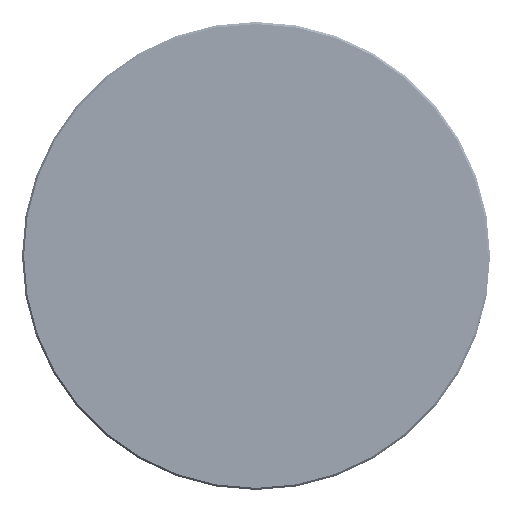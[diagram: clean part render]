
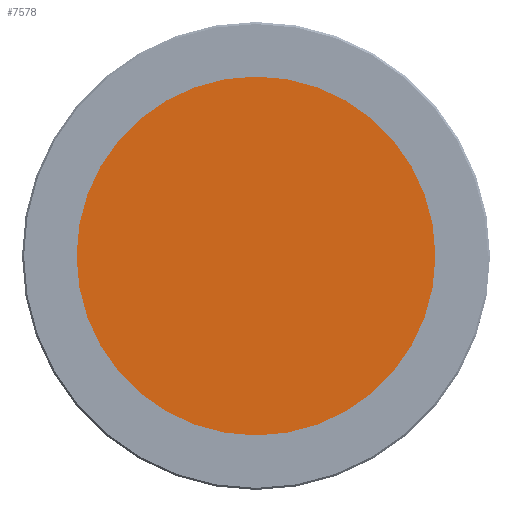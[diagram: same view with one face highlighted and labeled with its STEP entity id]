
A CAD part, top view. The second image highlights one B-rep face of the part: STEP entity #7578.
In plain terms, the highlighted planar face has unit normal (0, 0, 1).
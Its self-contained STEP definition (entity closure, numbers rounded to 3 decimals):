
#2111=CARTESIAN_POINT('',(0.,0.,3.7));
#2112=DIRECTION('',(0.,0.,-1.));
#2113=DIRECTION('',(1.,0.,0.));
#2114=AXIS2_PLACEMENT_3D('',#2111,#2112,#2113);
#2116=CARTESIAN_POINT('',(0.,0.,3.7));
#2117=DIRECTION('',(0.,0.,-1.));
#2118=DIRECTION('',(-1.,0.,0.));
#2119=AXIS2_PLACEMENT_3D('',#2116,#2117,#2118);
#3141=CARTESIAN_POINT('',(44.1,0.,3.7));
#3142=CARTESIAN_POINT('',(-44.1,0.,3.7));
#3143=VERTEX_POINT('',#3141);
#3144=VERTEX_POINT('',#3142);
#7568=CARTESIAN_POINT('',(0.,0.,3.7));
#7569=DIRECTION('',(0.,0.,1.));
#7570=DIRECTION('',(-1.,0.,0.));
#7571=AXIS2_PLACEMENT_3D('',#7568,#7569,#7570);
#7572=PLANE('',#7571);
#7573=ORIENTED_EDGE('',*,*,#7551,.T.);
#7575=ORIENTED_EDGE('',*,*,#7574,.T.);
#7576=EDGE_LOOP('',(#7573,#7575));
#7577=FACE_OUTER_BOUND('',#7576,.F.);
#7578=ADVANCED_FACE('',(#7577),#7572,.T.);
#2115=CIRCLE('',#2114,44.1);
#2120=CIRCLE('',#2119,44.1);
#7551=EDGE_CURVE('',#3143,#3144,#2115,.T.);
#7574=EDGE_CURVE('',#3144,#3143,#2120,.T.);
